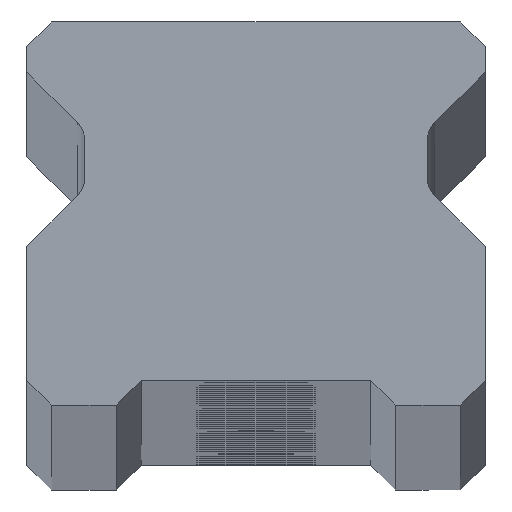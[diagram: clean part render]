
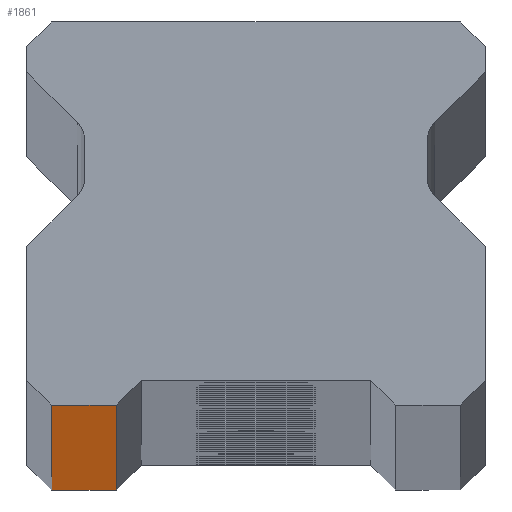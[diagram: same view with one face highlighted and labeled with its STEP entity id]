
A CAD part, top view. The second image highlights one B-rep face of the part: STEP entity #1861.
In plain terms, the highlighted planar face has unit normal (0, -1, 0).
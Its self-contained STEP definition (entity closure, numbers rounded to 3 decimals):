
#359 = ORIENTED_EDGE ( 'NONE', *, *, #6222, .T. ) ;
#371 = LINE ( 'NONE', #5206, #6379 ) ;
#446 = VERTEX_POINT ( 'NONE', #2726 ) ;
#643 = PLANE ( 'NONE',  #1361 ) ;
#695 = DIRECTION ( 'NONE',  ( 1., 0., 0. ) ) ;
#1361 = AXIS2_PLACEMENT_3D ( 'NONE', #1990, #7225, #3968 ) ;
#1411 = EDGE_CURVE ( 'NONE', #7672, #7631, #5917, .T. ) ;
#1861 = ADVANCED_FACE ( 'NONE', ( #6317 ), #643, .F. ) ;
#1906 = CARTESIAN_POINT ( 'NONE',  ( -10.25, 0., 1220. ) ) ;
#1990 = CARTESIAN_POINT ( 'NONE',  ( 11.5, 0., 1220. ) ) ;
#2035 = CARTESIAN_POINT ( 'NONE',  ( -7., 0., -1220. ) ) ;
#2726 = CARTESIAN_POINT ( 'NONE',  ( -10.25, 0., 1220. ) ) ;
#3006 = VECTOR ( 'NONE', #6488, 1000. ) ;
#3060 = VECTOR ( 'NONE', #7276, 1000. ) ;
#3495 = ORIENTED_EDGE ( 'NONE', *, *, #6265, .T. ) ;
#3828 = LINE ( 'NONE', #1906, #3006 ) ;
#3968 = DIRECTION ( 'NONE',  ( -1., 0., 0. ) ) ;
#4057 = ORIENTED_EDGE ( 'NONE', *, *, #5353, .F. ) ;
#4663 = CARTESIAN_POINT ( 'NONE',  ( -7., 0., -1220. ) ) ;
#5206 = CARTESIAN_POINT ( 'NONE',  ( 11.5, 0., -1220. ) ) ;
#5353 = EDGE_CURVE ( 'NONE', #446, #7631, #8124, .T. ) ;
#5361 = CARTESIAN_POINT ( 'NONE',  ( -10.25, 0., -1220. ) ) ;
#5525 = ORIENTED_EDGE ( 'NONE', *, *, #1411, .T. ) ;
#5781 = EDGE_LOOP ( 'NONE', ( #3495, #5525, #4057, #359 ) ) ;
#5917 = LINE ( 'NONE', #4663, #3060 ) ;
#6222 = EDGE_CURVE ( 'NONE', #446, #7707, #3828, .T. ) ;
#6265 = EDGE_CURVE ( 'NONE', #7707, #7672, #371, .T. ) ;
#6317 = FACE_OUTER_BOUND ( 'NONE', #5781, .T. ) ;
#6379 = VECTOR ( 'NONE', #7312, 1000. ) ;
#6396 = VECTOR ( 'NONE', #695, 1000. ) ;
#6488 = DIRECTION ( 'NONE',  ( 0., 0., -1. ) ) ;
#7185 = CARTESIAN_POINT ( 'NONE',  ( 11.5, 0., 1220. ) ) ;
#7225 = DIRECTION ( 'NONE',  ( 0., 1., 0. ) ) ;
#7270 = CARTESIAN_POINT ( 'NONE',  ( -7., 0., 1220. ) ) ;
#7276 = DIRECTION ( 'NONE',  ( 0., 0., 1. ) ) ;
#7312 = DIRECTION ( 'NONE',  ( 1., 0., 0. ) ) ;
#7631 = VERTEX_POINT ( 'NONE', #7270 ) ;
#7672 = VERTEX_POINT ( 'NONE', #2035 ) ;
#7707 = VERTEX_POINT ( 'NONE', #5361 ) ;
#8124 = LINE ( 'NONE', #7185, #6396 ) ;
